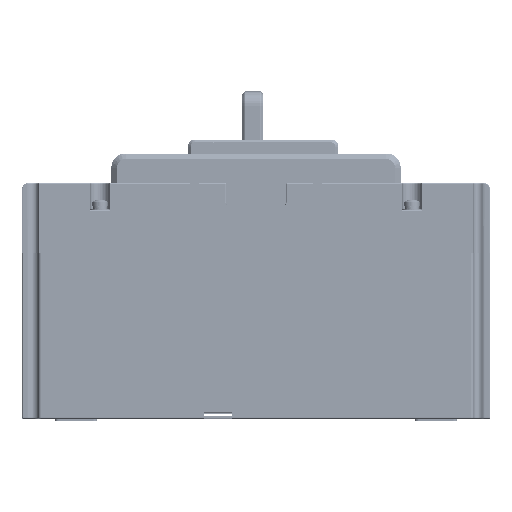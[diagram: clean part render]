
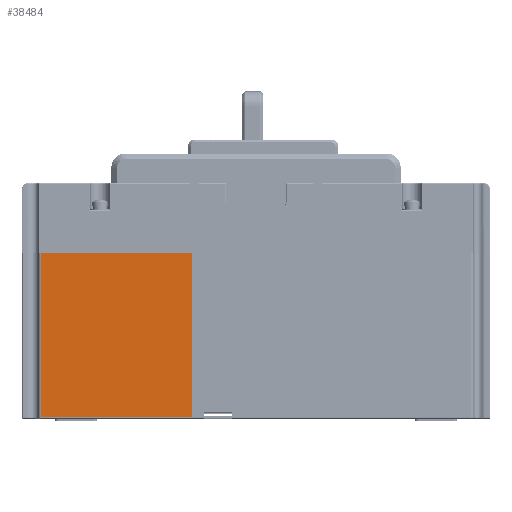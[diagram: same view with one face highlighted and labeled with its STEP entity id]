
A CAD part, top view. The second image highlights one B-rep face of the part: STEP entity #38484.
In plain terms, the highlighted planar face has unit normal (0, 0, 1).
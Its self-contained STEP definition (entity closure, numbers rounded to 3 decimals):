
#6543=DIRECTION('',(1.,0.,0.));
#6544=VECTOR('',#6543,53.167);
#6545=CARTESIAN_POINT('',(-75.667,-49.3,53.5));
#6546=LINE('',#6545,#6544);
#6547=DIRECTION('',(0.,-1.,0.));
#6548=VECTOR('',#6547,58.);
#6549=CARTESIAN_POINT('',(-75.667,8.7,53.5));
#6550=LINE('',#6549,#6548);
#6551=DIRECTION('',(-1.,0.,0.));
#6552=VECTOR('',#6551,53.167);
#6553=CARTESIAN_POINT('',(-22.5,8.7,53.5));
#6554=LINE('',#6553,#6552);
#6555=DIRECTION('',(0.,1.,0.));
#6556=VECTOR('',#6555,58.);
#6557=CARTESIAN_POINT('',(-22.5,-49.3,53.5));
#6558=LINE('',#6557,#6556);
#27972=CARTESIAN_POINT('',(-75.667,8.7,53.5));
#27974=VERTEX_POINT('',#27972);
#27997=CARTESIAN_POINT('',(-22.5,8.7,53.5));
#27998=VERTEX_POINT('',#27997);
#30756=CARTESIAN_POINT('',(-22.5,-49.3,53.5));
#30758=VERTEX_POINT('',#30756);
#30762=CARTESIAN_POINT('',(-75.667,-49.3,53.5));
#30763=VERTEX_POINT('',#30762);
#38470=CARTESIAN_POINT('',(0.,0.,53.5));
#38471=DIRECTION('',(0.,0.,1.));
#38472=DIRECTION('',(1.,0.,0.));
#38473=AXIS2_PLACEMENT_3D('',#38470,#38471,#38472);
#38474=PLANE('',#38473);
#38476=ORIENTED_EDGE('',*,*,#38475,.F.);
#38478=ORIENTED_EDGE('',*,*,#38477,.F.);
#38479=ORIENTED_EDGE('',*,*,#32379,.F.);
#38481=ORIENTED_EDGE('',*,*,#38480,.F.);
#38482=EDGE_LOOP('',(#38476,#38478,#38479,#38481));
#38483=FACE_OUTER_BOUND('',#38482,.F.);
#38484=ADVANCED_FACE('',(#38483),#38474,.T.);
#32379=EDGE_CURVE('',#27998,#27974,#6554,.T.);
#38475=EDGE_CURVE('',#30763,#30758,#6546,.T.);
#38477=EDGE_CURVE('',#27974,#30763,#6550,.T.);
#38480=EDGE_CURVE('',#30758,#27998,#6558,.T.);
